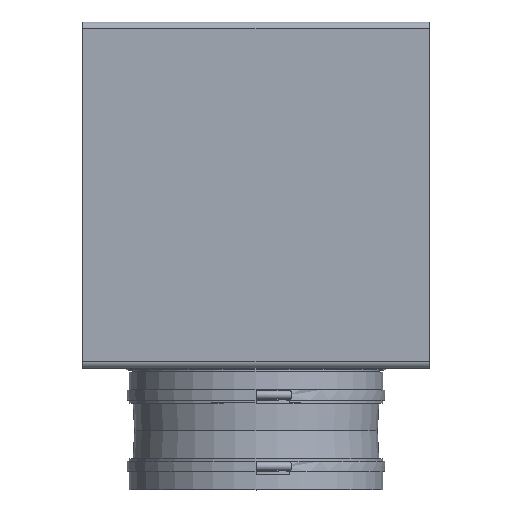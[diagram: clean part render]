
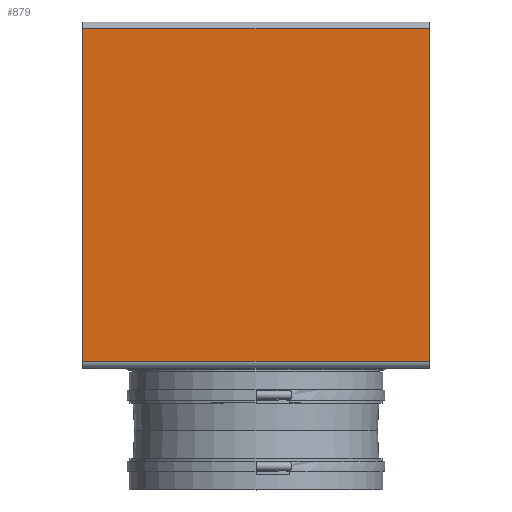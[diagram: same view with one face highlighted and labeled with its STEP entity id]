
A CAD part, top view. The second image highlights one B-rep face of the part: STEP entity #879.
In plain terms, the highlighted planar face has unit normal (0, 0, 1).
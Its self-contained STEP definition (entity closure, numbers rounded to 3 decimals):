
#85=PLANE('',#991);
#138=FACE_OUTER_BOUND('',#227,.T.);
#227=EDGE_LOOP('',(#718,#719,#720,#721));
#290=LINE('',#1478,#334);
#291=LINE('',#1480,#335);
#292=LINE('',#1482,#336);
#293=LINE('',#1483,#337);
#334=VECTOR('',#1217,10.);
#335=VECTOR('',#1218,10.);
#336=VECTOR('',#1219,10.);
#337=VECTOR('',#1220,10.);
#466=VERTEX_POINT('',#1476);
#467=VERTEX_POINT('',#1477);
#468=VERTEX_POINT('',#1479);
#469=VERTEX_POINT('',#1481);
#558=EDGE_CURVE('',#466,#467,#290,.T.);
#559=EDGE_CURVE('',#468,#466,#291,.T.);
#560=EDGE_CURVE('',#469,#468,#292,.T.);
#561=EDGE_CURVE('',#469,#467,#293,.T.);
#718=ORIENTED_EDGE('',*,*,#558,.F.);
#719=ORIENTED_EDGE('',*,*,#559,.F.);
#720=ORIENTED_EDGE('',*,*,#560,.F.);
#721=ORIENTED_EDGE('',*,*,#561,.T.);
#879=ADVANCED_FACE('',(#138),#85,.T.);
#991=AXIS2_PLACEMENT_3D('',#1475,#1215,#1216);
#1215=DIRECTION('center_axis',(0.,0.,1.));
#1216=DIRECTION('ref_axis',(1.,0.,0.));
#1217=DIRECTION('',(1.,0.,0.));
#1218=DIRECTION('',(0.,1.,0.));
#1219=DIRECTION('',(-1.,0.,0.));
#1220=DIRECTION('',(0.,1.,0.));
#1475=CARTESIAN_POINT('Origin',(-250.,0.,250.));
#1476=CARTESIAN_POINT('',(-250.,240.,250.));
#1477=CARTESIAN_POINT('',(250.,240.,250.));
#1478=CARTESIAN_POINT('',(-125.,240.,250.));
#1479=CARTESIAN_POINT('',(-250.,-240.,250.));
#1480=CARTESIAN_POINT('',(-250.,0.,250.));
#1481=CARTESIAN_POINT('',(250.,-240.,250.));
#1482=CARTESIAN_POINT('',(-125.,-240.,250.));
#1483=CARTESIAN_POINT('',(250.,0.,250.));
